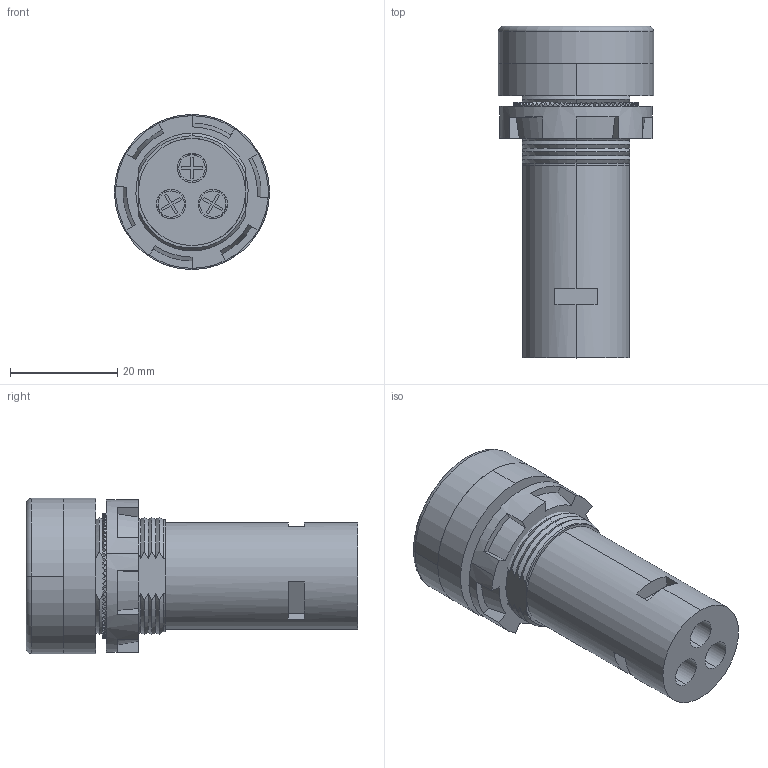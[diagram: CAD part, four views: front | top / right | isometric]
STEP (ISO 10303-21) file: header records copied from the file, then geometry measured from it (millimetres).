
FILE_DESCRIPTION (( 'STEP AP214' ), '1' );
FILE_NAME ('3D 沓麧錪 MT22-WG24.STEP', '2017-06-25T16:28:55', ( '' ), ( '' ), 'SwSTEP 2.0', 'SolidWorks 2011', '' );
FILE_SCHEMA (( 'AUTOMOTIVE_DESIGN' ));
Length unit declared in the file: millimetre
Products named in the file (4): 署赅 豚祜鸰1镳铉; 扻錪犩; Ëàìïà MT22-WG24; 3D 沓麧錪 MT22-WG24
Assembly tree (3 placements, depth 2):
  3D 沓麧錪 MT22-WG24
    Ëàìïà MT22-WG24
    扻錪犩
    署赅 豚祜鸰1镳铉
Bounding box: 29 x 62 x 29 mm (x, y, z)
Volume: 21826.5 mm3; surface area: 11603.3 mm2
Topology: 3 solids, 4 shells, 432 faces, 1225 edges, 813 vertices
Faces by surface type: plane 265, bspline 74, cone 60, cylinder 31, torus 2
Entity records: 20686 total; most frequent: CARTESIAN_POINT 9542, ORIENTED_EDGE 2450, DIRECTION 1524, EDGE_CURVE 1225, VERTEX_POINT 813, AXIS2_PLACEMENT_3D 539, B_SPLINE_CURVE_WITH_KNOTS 455, EDGE_LOOP 452
